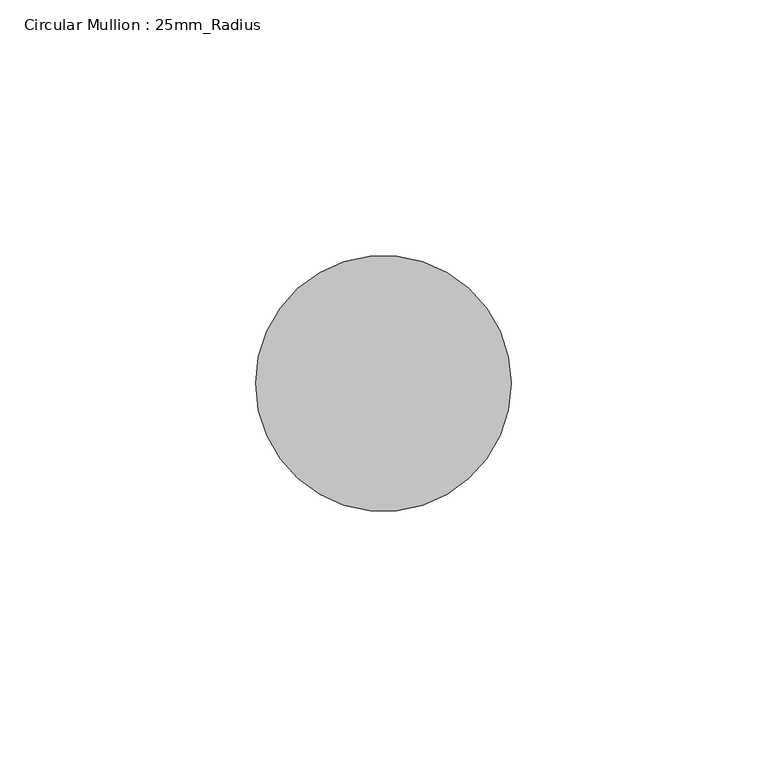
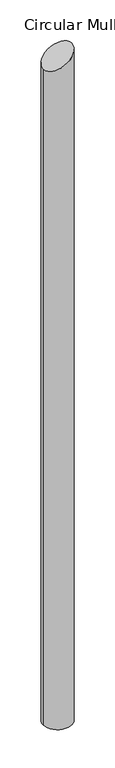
"""IFC4 building model written with IfcOpenShell, lengths in millimetres: member geometry, Circular Mullion : 25mm_Radius."""

from ifc_helpers import new_model, si_unit, frame, origin, place, context, project, spatial, circle_curve, ellipse_curve, source, transform, mapped, element, save
from ifc_brep_helpers import plane_surface, cylinder_surface, advanced_brep


def circular_mullion_25mm_radius_7cad4d47(model_context):
    return source(origin(), model_context, "Body", "AdvancedBrep", [
        advanced_brep(
        [(-50.0, 0.0, -30.282689), (0.0, 0.0, 0.0), (0.0, 0.0, -1232.566936), (-50.0, 0.0, -1232.566936)],
        [
            (0, 1, ellipse_curve(frame((-25.0, 0.0, -15.1413445), z_axis=(0.5180471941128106, 0.0, -0.8553520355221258), x_axis=(0.8553520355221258, 0.0, 0.5180471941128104)), 29.2277319, 25.0)),
            (1, 2),
            (2, 3, circle_curve(frame((-25.0, 0.0, -1232.566936), z_axis=(0.0, 0.0, 1.0), x_axis=(1.0, 0.0, 0.0)), 25.0)),
            (3, 0),
            (1, 0, ellipse_curve(frame((-25.0, 0.0, -15.1413445), z_axis=(0.5180471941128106, 0.0, -0.8553520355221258), x_axis=(0.8553520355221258, 0.0, 0.5180471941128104)), 29.2277319, 25.0)),
            (3, 2, circle_curve(frame((-25.0, 0.0, -1232.566936), z_axis=(0.0, 0.0, 1.0), x_axis=(1.0, 0.0, 0.0)), 25.0)),
        ],
        [
            cylinder_surface(frame((-25.0, 0.0, 0.0), z_axis=(0.0, 0.0, 1.0), x_axis=(1.0, 0.0, 0.0)), 25.0),
            plane_surface(frame((0.0, -304.8, 0.0), z_axis=(-0.5180471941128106, 0.0, 0.8553520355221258), x_axis=(-0.8553520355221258, 0.0, -0.5180471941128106))),
            plane_surface(frame((-304.8, 0.0, -1232.566936), z_axis=(0.0, 0.0, -1.0), x_axis=(0.0, 1.0, 0.0))),
        ],
        [
            (0, [[1, 2, 3, 4]]),
            (0, [[5, -4, 6, -2]]),
            (1, [[-1, -5]]),
            (2, [[-6, -3]]),
        ],
    ),
    ])


if __name__ == "__main__":
    model = new_model("IFC4")
    model_context = context("Model", 3, world=origin())
    ifc_project = project(units=[si_unit("LENGTHUNIT", "METRE", prefix="MILLI")], contexts=[model_context])
    site = spatial("IfcSite", under=ifc_project)
    building = spatial("IfcBuilding", under=site)
    placement = place(None, origin())
    circular_mullion_25mm_radius_shape = circular_mullion_25mm_radius_7cad4d47(model_context)
    element("IfcMember", 1, ObjectType="Circular Mullion : 25mm_Radius", at=placement, inside=building, context=model_context, shape_type="MappedRepresentation", body=[
        mapped(circular_mullion_25mm_radius_shape, transform((0.0, 0.0, 0.0), x_axis=(1.0, 0.0, 0.0), y_axis=(0.0, 1.0, 0.0), z_axis=(0.0, 0.0, 1.0))),
    ])
    save(model, "model.ifc")
